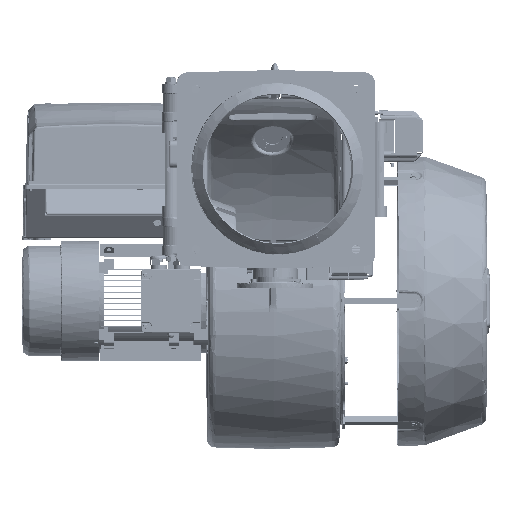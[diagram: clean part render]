
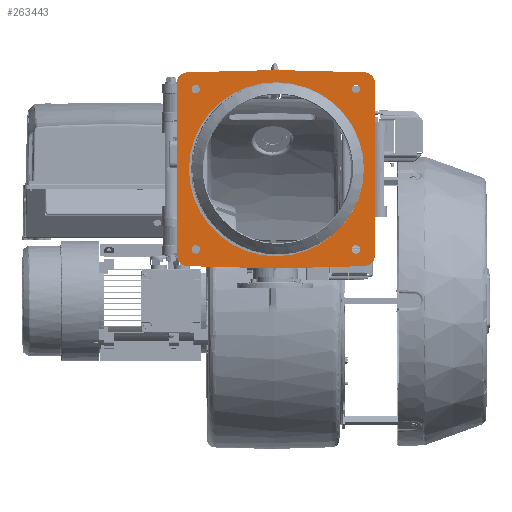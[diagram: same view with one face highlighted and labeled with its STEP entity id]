
A CAD part, top view. The second image highlights one B-rep face of the part: STEP entity #263443.
In plain terms, the highlighted planar face has unit normal (0, -0.001, 1).
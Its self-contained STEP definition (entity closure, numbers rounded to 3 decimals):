
#2937 = CARTESIAN_POINT ( 'NONE',  ( -217.016, -228.234, -336.376 ) ) ;
#3694 = CARTESIAN_POINT ( 'NONE',  ( -246.23, -198.244, -336.361 ) ) ;
#5341 = CARTESIAN_POINT ( 'NONE',  ( 244.556, 279.679, -336.09 ) ) ;
#5559 = DIRECTION ( 'NONE',  ( -1., 0., 0. ) ) ;
#9088 = CARTESIAN_POINT ( 'NONE',  ( -246.229, 249.69, -336.124 ) ) ;
#12157 = CARTESIAN_POINT ( 'NONE',  ( -214.23, 25.723, -336.241 ) ) ;
#12510 = DIRECTION ( 'NONE',  ( 0., -1., -0.001 ) ) ;
#13937 = DIRECTION ( 'NONE',  ( -1., 0., 0. ) ) ;
#14711 = CIRCLE ( 'NONE', #79382, 11. ) ;
#16053 = EDGE_CURVE ( 'NONE', #68452, #138916, #83513, .T. ) ;
#16690 = ORIENTED_EDGE ( 'NONE', *, *, #40006, .T. ) ;
#19253 = EDGE_CURVE ( 'NONE', #180950, #196639, #151749, .T. ) ;
#26827 = DIRECTION ( 'NONE',  ( 0., 0.001, -1. ) ) ;
#30522 = CARTESIAN_POINT ( 'NONE',  ( 13.77, 25.722, -336.233 ) ) ;
#35554 = DIRECTION ( 'NONE',  ( 0., 1., 0.001 ) ) ;
#36701 = VECTOR ( 'NONE', #12510, 1000. ) ;
#38785 = CARTESIAN_POINT ( 'NONE',  ( 13.771, 285.722, -336.095 ) ) ;
#40006 = EDGE_CURVE ( 'NONE', #175878, #175878, #14711, .T. ) ;
#41722 = VERTEX_POINT ( 'NONE', #172596 ) ;
#42021 = DIRECTION ( 'NONE',  ( 0., -0.001, 1. ) ) ;
#43942 = VECTOR ( 'NONE', #35554, 1000. ) ;
#43978 = CARTESIAN_POINT ( 'NONE',  ( 273.77, -227.47, -336.357 ) ) ;
#45560 = PLANE ( 'NONE',  #300962 ) ;
#47739 = ORIENTED_EDGE ( 'NONE', *, *, #234800, .T. ) ;
#53906 = DIRECTION ( 'NONE',  ( -1., 0., 0. ) ) ;
#55365 = VERTEX_POINT ( 'NONE', #38785 ) ;
#56706 = VERTEX_POINT ( 'NONE', #199416 ) ;
#58529 = CARTESIAN_POINT ( 'NONE',  ( 13.77, -234.278, -336.37 ) ) ;
#59756 = VECTOR ( 'NONE', #253436, 1000. ) ;
#59947 = CARTESIAN_POINT ( 'NONE',  ( -207.229, 235.723, -336.13 ) ) ;
#60663 = VERTEX_POINT ( 'NONE', #12157 ) ;
#61227 = VECTOR ( 'NONE', #272901, 1000. ) ;
#62289 = EDGE_LOOP ( 'NONE', ( #176168, #47739, #210625, #290118, #82606, #110437, #249161, #236853, #114101, #226474 ) ) ;
#63456 = CARTESIAN_POINT ( 'NONE',  ( 13.771, 285.722, -336.095 ) ) ;
#67819 = CARTESIAN_POINT ( 'NONE',  ( 273.77, -198.245, -336.342 ) ) ;
#68452 = VERTEX_POINT ( 'NONE', #89449 ) ;
#73537 = EDGE_CURVE ( 'NONE', #55365, #153708, #123153, .T. ) ;
#79382 = AXIS2_PLACEMENT_3D ( 'NONE', #248720, #109356, #272119 ) ;
#81696 = CARTESIAN_POINT ( 'NONE',  ( 13.77, -234.278, -336.37 ) ) ;
#81775 = AXIS2_PLACEMENT_3D ( 'NONE', #110516, #273261, #133966 ) ;
#82606 = ORIENTED_EDGE ( 'NONE', *, *, #19253, .T. ) ;
#83513 = CIRCLE ( 'NONE', #167149, 30. ) ;
#85247 = EDGE_CURVE ( 'NONE', #180950, #55365, #189575, .T. ) ;
#87684 = AXIS2_PLACEMENT_3D ( 'NONE', #138017, #300668, #161343 ) ;
#89449 = CARTESIAN_POINT ( 'NONE',  ( 244.555, -228.235, -336.359 ) ) ;
#95016 = EDGE_LOOP ( 'NONE', ( #227593 ) ) ;
#99504 = EDGE_CURVE ( 'NONE', #236878, #196639, #229465, .T. ) ;
#99519 = AXIS2_PLACEMENT_3D ( 'NONE', #284174, #144825, #5559 ) ;
#100067 = EDGE_LOOP ( 'NONE', ( #166220 ) ) ;
#102664 = VERTEX_POINT ( 'NONE', #81696 ) ;
#104790 = CIRCLE ( 'NONE', #99519, 30. ) ;
#109356 = DIRECTION ( 'NONE',  ( 0., 0.001, -1. ) ) ;
#110437 = ORIENTED_EDGE ( 'NONE', *, *, #99504, .F. ) ;
#110516 = CARTESIAN_POINT ( 'NONE',  ( 243.771, 249.689, -336.106 ) ) ;
#110931 = EDGE_CURVE ( 'NONE', #236878, #271392, #104790, .T. ) ;
#114101 = ORIENTED_EDGE ( 'NONE', *, *, #191221, .F. ) ;
#114556 = CIRCLE ( 'NONE', #87684, 11. ) ;
#116699 = DIRECTION ( 'NONE',  ( 0., 0.001, -1. ) ) ;
#121688 = LINE ( 'NONE', #43978, #59756 ) ;
#123153 = LINE ( 'NONE', #63456, #61227 ) ;
#124460 = FACE_OUTER_BOUND ( 'NONE', #62289, .T. ) ;
#131671 = FACE_BOUND ( 'NONE', #281009, .T. ) ;
#131670 = AXIS2_PLACEMENT_3D ( 'NONE', #292558, #153192, #13937 ) ;
#133966 = DIRECTION ( 'NONE',  ( -1., 0., 0. ) ) ;
#138017 = CARTESIAN_POINT ( 'NONE',  ( -196.229, 235.723, -336.129 ) ) ;
#138916 = VERTEX_POINT ( 'NONE', #67819 ) ;
#139014 = FACE_BOUND ( 'NONE', #235430, .T. ) ;
#141290 = CIRCLE ( 'NONE', #284479, 11. ) ;
#143084 = VECTOR ( 'NONE', #152016, 1000. ) ;
#144825 = DIRECTION ( 'NONE',  ( 0., -0.001, 1. ) ) ;
#150570 = ORIENTED_EDGE ( 'NONE', *, *, #188287, .T. ) ;
#151749 = CIRCLE ( 'NONE', #153721, 30. ) ;
#152016 = DIRECTION ( 'NONE',  ( -1., 0.026, 0. ) ) ;
#153192 = DIRECTION ( 'NONE',  ( 0., 0.001, -1. ) ) ;
#153708 = VERTEX_POINT ( 'NONE', #5341 ) ;
#153721 = AXIS2_PLACEMENT_3D ( 'NONE', #218449, #218175, #218099 ) ;
#154824 = CIRCLE ( 'NONE', #81775, 30. ) ;
#160417 = LINE ( 'NONE', #291163, #36701 ) ;
#161343 = DIRECTION ( 'NONE',  ( -1., 0., 0. ) ) ;
#166090 = CARTESIAN_POINT ( 'NONE',  ( 223.77, -184.278, -336.336 ) ) ;
#166220 = ORIENTED_EDGE ( 'NONE', *, *, #267040, .T. ) ;
#167149 = AXIS2_PLACEMENT_3D ( 'NONE', #273478, #42021, #246795 ) ;
#169964 = CIRCLE ( 'NONE', #216001, 228. ) ;
#172596 = CARTESIAN_POINT ( 'NONE',  ( 212.77, -184.278, -336.336 ) ) ;
#175878 = VERTEX_POINT ( 'NONE', #280199 ) ;
#176168 = ORIENTED_EDGE ( 'NONE', *, *, #247486, .F. ) ;
#180876 = CARTESIAN_POINT ( 'NONE',  ( 273.771, 249.689, -336.105 ) ) ;
#180950 = VERTEX_POINT ( 'NONE', #261481 ) ;
#182294 = VECTOR ( 'NONE', #294874, 1000. ) ;
#184803 = EDGE_CURVE ( 'NONE', #60663, #60663, #169964, .T. ) ;
#186243 = FACE_BOUND ( 'NONE', #235613, .T. ) ;
#188287 = EDGE_CURVE ( 'NONE', #217092, #217092, #114556, .T. ) ;
#189469 = DIRECTION ( 'NONE',  ( -1., 0., 0. ) ) ;
#189575 = LINE ( 'NONE', #214600, #182294 ) ;
#190121 = CIRCLE ( 'NONE', #131670, 11. ) ;
#191221 = EDGE_CURVE ( 'NONE', #68452, #102664, #121688, .T. ) ;
#193209 = DIRECTION ( 'NONE',  ( 0., 0.001, -1. ) ) ;
#196639 = VERTEX_POINT ( 'NONE', #9088 ) ;
#198259 = CARTESIAN_POINT ( 'NONE',  ( -246.23, -227.469, -336.376 ) ) ;
#199416 = CARTESIAN_POINT ( 'NONE',  ( -207.23, -184.277, -336.352 ) ) ;
#204871 = LINE ( 'NONE', #58529, #143084 ) ;
#210625 = ORIENTED_EDGE ( 'NONE', *, *, #73537, .F. ) ;
#214600 = CARTESIAN_POINT ( 'NONE',  ( -246.229, 278.915, -336.108 ) ) ;
#216001 = AXIS2_PLACEMENT_3D ( 'NONE', #30522, #193209, #53906 ) ;
#217092 = VERTEX_POINT ( 'NONE', #59947 ) ;
#218099 = DIRECTION ( 'NONE',  ( -1., 0., 0. ) ) ;
#218175 = DIRECTION ( 'NONE',  ( 0., -0.001, 1. ) ) ;
#218449 = CARTESIAN_POINT ( 'NONE',  ( -216.229, 249.69, -336.123 ) ) ;
#226474 = ORIENTED_EDGE ( 'NONE', *, *, #16053, .T. ) ;
#227593 = ORIENTED_EDGE ( 'NONE', *, *, #253719, .T. ) ;
#229465 = LINE ( 'NONE', #198259, #43942 ) ;
#234800 = EDGE_CURVE ( 'NONE', #259695, #153708, #154824, .T. ) ;
#234917 = ORIENTED_EDGE ( 'NONE', *, *, #184803, .T. ) ;
#235430 = EDGE_LOOP ( 'NONE', ( #150570 ) ) ;
#235613 = EDGE_LOOP ( 'NONE', ( #234917 ) ) ;
#236853 = ORIENTED_EDGE ( 'NONE', *, *, #261452, .F. ) ;
#236878 = VERTEX_POINT ( 'NONE', #3694 ) ;
#246795 = DIRECTION ( 'NONE',  ( -1., 0., 0. ) ) ;
#247486 = EDGE_CURVE ( 'NONE', #259695, #138916, #160417, .T. ) ;
#248081 = FACE_BOUND ( 'NONE', #95016, .T. ) ;
#248720 = CARTESIAN_POINT ( 'NONE',  ( 223.771, 235.722, -336.114 ) ) ;
#249161 = ORIENTED_EDGE ( 'NONE', *, *, #110931, .T. ) ;
#253436 = DIRECTION ( 'NONE',  ( -1., -0.026, 0. ) ) ;
#253719 = EDGE_CURVE ( 'NONE', #41722, #41722, #141290, .T. ) ;
#255387 = FACE_BOUND ( 'NONE', #100067, .T. ) ;
#255989 = CARTESIAN_POINT ( 'NONE',  ( 13.77, 25.722, -336.233 ) ) ;
#259695 = VERTEX_POINT ( 'NONE', #180876 ) ;
#261452 = EDGE_CURVE ( 'NONE', #102664, #271392, #204871, .T. ) ;
#261481 = CARTESIAN_POINT ( 'NONE',  ( -217.015, 279.679, -336.107 ) ) ;
#263443 = ADVANCED_FACE ( 'NONE', ( #139014, #255387, #248081, #131671, #186243, #124460 ), #45560, .F. ) ;
#267040 = EDGE_CURVE ( 'NONE', #56706, #56706, #190121, .T. ) ;
#271392 = VERTEX_POINT ( 'NONE', #2937 ) ;
#272119 = DIRECTION ( 'NONE',  ( -1., 0., 0. ) ) ;
#272901 = DIRECTION ( 'NONE',  ( 1., -0.026, 0. ) ) ;
#273261 = DIRECTION ( 'NONE',  ( 0., -0.001, 1. ) ) ;
#273478 = CARTESIAN_POINT ( 'NONE',  ( 243.77, -198.245, -336.343 ) ) ;
#279433 = DIRECTION ( 'NONE',  ( -1., 0., 0. ) ) ;
#280199 = CARTESIAN_POINT ( 'NONE',  ( 212.771, 235.722, -336.114 ) ) ;
#281009 = EDGE_LOOP ( 'NONE', ( #16690 ) ) ;
#284174 = CARTESIAN_POINT ( 'NONE',  ( -216.23, -198.244, -336.36 ) ) ;
#284479 = AXIS2_PLACEMENT_3D ( 'NONE', #166090, #26827, #189469 ) ;
#290118 = ORIENTED_EDGE ( 'NONE', *, *, #85247, .F. ) ;
#291163 = CARTESIAN_POINT ( 'NONE',  ( 273.771, 278.913, -336.089 ) ) ;
#292558 = CARTESIAN_POINT ( 'NONE',  ( -196.23, -184.277, -336.352 ) ) ;
#294874 = DIRECTION ( 'NONE',  ( 1., 0.026, 0. ) ) ;
#300668 = DIRECTION ( 'NONE',  ( 0., 0.001, -1. ) ) ;
#300962 = AXIS2_PLACEMENT_3D ( 'NONE', #255989, #116699, #279433 ) ;
